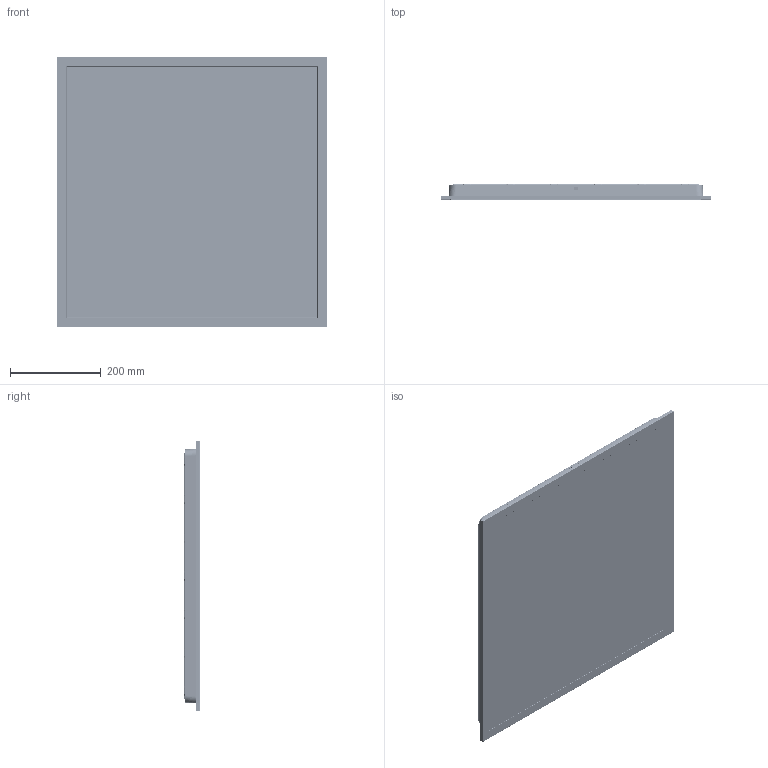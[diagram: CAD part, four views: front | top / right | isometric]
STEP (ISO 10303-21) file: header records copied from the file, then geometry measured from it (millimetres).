
FILE_DESCRIPTION(('Creo Elements/Direct Modeling STEP Export'),'2;1');
FILE_NAME('Backlight_Panel_600x600.stp','2020-04-15T 6:55:07',(''),(''),'PTC Creo Elements/Direct Modeling STEP processor for AP214 (Solid Model)','PTC Creo Elements/Direct Modeling 19.0E 27-Jun-2016 (C) Parametric Technology GmbH','');
FILE_SCHEMA(('AUTOMOTIVE_DESIGN { 1 0 10303 214 1 1 1 1 }'));
Length unit declared in the file: millimetre
Products named in the file (6): screw3; optic; Panel; LENS_10_1_1_1.PRT.8; PCB_3; Backlight_6060
Assembly tree (31 placements, depth 3):
  Backlight_6060
    screw3  x16
    PCB_3  x6
      LENS_10_1_1_1.PRT.8
    Panel
    optic
Bounding box: 595 x 33.61 x 595 mm (x, y, z)
Volume: 564065.6 mm3; surface area: 1725709.4 mm2
Topology: 60 solids, 61 shells, 27926 faces, 50890 edges, 23088 vertices
Faces by surface type: plane 23436, cylinder 3494, torus 320, extrusion 252, bspline 168, revolution 168, cone 88
Entity records: 82565 total; most frequent: CARTESIAN_POINT 16001, ORIENTED_EDGE 11318, DIRECTION 10961, EDGE_CURVE 5659, AXIS2_PLACEMENT_3D 3687, VECTOR 3583, LINE 3577, VERTEX_POINT 3426
